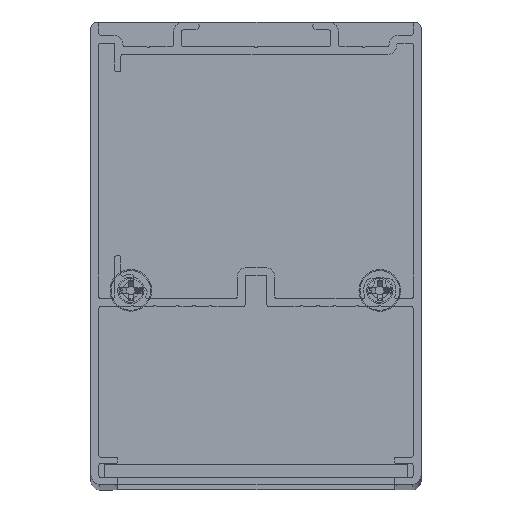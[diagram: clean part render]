
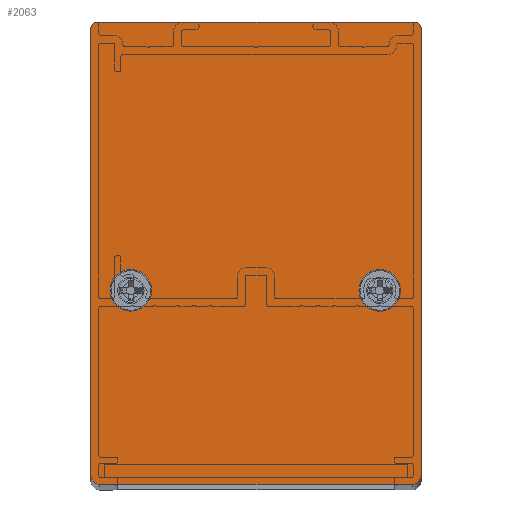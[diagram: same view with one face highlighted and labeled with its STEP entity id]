
A CAD part, top view. The second image highlights one B-rep face of the part: STEP entity #2063.
In plain terms, the highlighted planar face has unit normal (0, 0, 1).
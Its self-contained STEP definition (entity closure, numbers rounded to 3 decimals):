
#2063=ADVANCED_FACE('',(#3819,#3821,#3823),#3825,.T.);
#3819=FACE_BOUND('',#3820,.T.);
#3820=EDGE_LOOP('',(#5632,#5633,#5634,#5635,#5636,#5637,#5638,#5639));
#3821=FACE_BOUND('',#3822,.T.);
#3822=EDGE_LOOP('',(#5640));
#3823=FACE_BOUND('',#3824,.T.);
#3824=EDGE_LOOP('',(#5641));
#3825=PLANE('',#3826);
#3826=AXIS2_PLACEMENT_3D('',#3827,#3828,#3829);
#3827=CARTESIAN_POINT('',(0.,0.,251.));
#3828=DIRECTION('',(0.,0.,1.));
#3829=DIRECTION('',(1.,0.,0.));
#5632=ORIENTED_EDGE('',*,*,#6478,.T.);
#5633=ORIENTED_EDGE('',*,*,#6479,.T.);
#5634=ORIENTED_EDGE('',*,*,#6480,.T.);
#5635=ORIENTED_EDGE('',*,*,#6481,.T.);
#5636=ORIENTED_EDGE('',*,*,#6482,.T.);
#5637=ORIENTED_EDGE('',*,*,#6483,.T.);
#5638=ORIENTED_EDGE('',*,*,#6484,.T.);
#5639=ORIENTED_EDGE('',*,*,#6485,.T.);
#5640=ORIENTED_EDGE('',*,*,#6486,.T.);
#5641=ORIENTED_EDGE('',*,*,#6487,.T.);
#6478=EDGE_CURVE('',#7607,#7608,#7609,.T.);
#6479=EDGE_CURVE('',#7608,#7610,#7611,.T.);
#6480=EDGE_CURVE('',#7610,#7612,#7613,.T.);
#6481=EDGE_CURVE('',#7612,#7614,#7615,.T.);
#6482=EDGE_CURVE('',#7614,#7616,#7617,.T.);
#6483=EDGE_CURVE('',#7616,#7618,#7619,.T.);
#6484=EDGE_CURVE('',#7618,#7620,#7621,.T.);
#6485=EDGE_CURVE('',#7620,#7607,#7622,.T.);
#6486=EDGE_CURVE('',#7623,#7623,#7624,.F.);
#6487=EDGE_CURVE('',#7625,#7625,#7626,.F.);
#7607=VERTEX_POINT('',#10325);
#7608=VERTEX_POINT('',#10326);
#7609=LINE('',#10327,#10328);
#7610=VERTEX_POINT('',#10330);
#7611=CIRCLE('',#10331,0.9);
#7612=VERTEX_POINT('',#10335);
#7613=LINE('',#10336,#10337);
#7614=VERTEX_POINT('',#10339);
#7615=CIRCLE('',#10340,0.9);
#7616=VERTEX_POINT('',#10344);
#7617=LINE('',#10345,#10346);
#7618=VERTEX_POINT('',#10348);
#7619=CIRCLE('',#10349,1.35);
#7620=VERTEX_POINT('',#10353);
#7621=LINE('',#10354,#10355);
#7622=CIRCLE('',#10357,1.35);
#7623=VERTEX_POINT('',#10361);
#7624=CIRCLE('',#10362,3.);
#7625=VERTEX_POINT('',#10366);
#7626=CIRCLE('',#10367,3.);
#10325=CARTESIAN_POINT('',(25.,-63.75,251.));
#10326=CARTESIAN_POINT('',(25.,4.,251.));
#10327=CARTESIAN_POINT('',(25.,-63.75,251.));
#10328=VECTOR('',#10329,1.);
#10329=DIRECTION('',(0.,1.,0.));
#10330=CARTESIAN_POINT('',(24.1,4.9,251.));
#10331=AXIS2_PLACEMENT_3D('',#10332,#10333,#10334);
#10332=CARTESIAN_POINT('',(24.1,4.,251.));
#10333=DIRECTION('',(-0.,0.,1.));
#10334=DIRECTION('',(1.,0.,0.));
#10335=CARTESIAN_POINT('',(-24.1,4.9,251.));
#10336=CARTESIAN_POINT('',(24.1,4.9,251.));
#10337=VECTOR('',#10338,1.);
#10338=DIRECTION('',(-1.,0.,0.));
#10339=CARTESIAN_POINT('',(-25.,4.,251.));
#10340=AXIS2_PLACEMENT_3D('',#10341,#10342,#10343);
#10341=CARTESIAN_POINT('',(-24.1,4.,251.));
#10342=DIRECTION('',(0.,0.,1.));
#10343=DIRECTION('',(0.,1.,0.));
#10344=CARTESIAN_POINT('',(-25.,-63.75,251.));
#10345=CARTESIAN_POINT('',(-25.,4.,251.));
#10346=VECTOR('',#10347,1.);
#10347=DIRECTION('',(0.,-1.,0.));
#10348=CARTESIAN_POINT('',(-23.65,-65.1,251.));
#10349=AXIS2_PLACEMENT_3D('',#10350,#10351,#10352);
#10350=CARTESIAN_POINT('',(-23.65,-63.75,251.));
#10351=DIRECTION('',(0.,0.,1.));
#10352=DIRECTION('',(-1.,0.,0.));
#10353=CARTESIAN_POINT('',(23.65,-65.1,251.));
#10354=CARTESIAN_POINT('',(-23.65,-65.1,251.));
#10355=VECTOR('',#10356,1.);
#10356=DIRECTION('',(1.,0.,0.));
#10357=AXIS2_PLACEMENT_3D('',#10358,#10359,#10360);
#10358=CARTESIAN_POINT('',(23.65,-63.75,251.));
#10359=DIRECTION('',(0.,-0.,1.));
#10360=DIRECTION('',(0.,-1.,0.));
#10361=CARTESIAN_POINT('',(21.749,-35.751,251.));
#10362=AXIS2_PLACEMENT_3D('',#10363,#10364,#10365);
#10363=CARTESIAN_POINT('',(18.749,-35.751,251.));
#10364=DIRECTION('',(0.,0.,1.));
#10365=DIRECTION('',(1.,0.,0.));
#10366=CARTESIAN_POINT('',(-15.956,-35.747,251.));
#10367=AXIS2_PLACEMENT_3D('',#10368,#10369,#10370);
#10368=CARTESIAN_POINT('',(-18.956,-35.747,251.));
#10369=DIRECTION('',(0.,0.,1.));
#10370=DIRECTION('',(1.,0.,0.));
